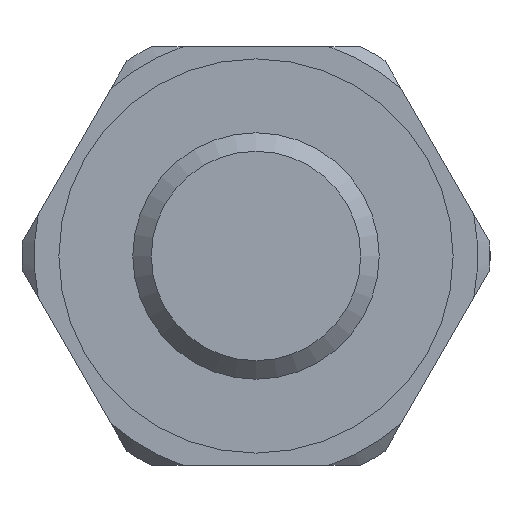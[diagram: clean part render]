
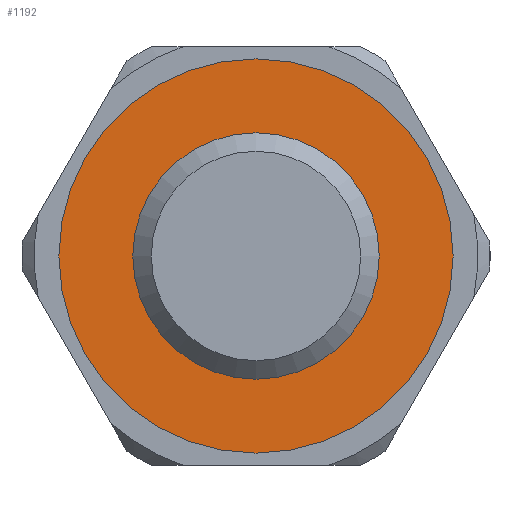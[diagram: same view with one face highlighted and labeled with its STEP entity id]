
A CAD part, left-side view. The second image highlights one B-rep face of the part: STEP entity #1192.
In plain terms, the highlighted planar face has unit normal (-1, 0, 0).
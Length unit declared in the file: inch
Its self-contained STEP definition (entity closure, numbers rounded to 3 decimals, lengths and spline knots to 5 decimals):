
#58=FACE_BOUND('',#188,.T.);
#76=PLANE('',#1322);
#120=FACE_OUTER_BOUND('',#187,.T.);
#187=EDGE_LOOP('',(#911,#912));
#188=EDGE_LOOP('',(#913,#914));
#332=CIRCLE('',#1250,0.1378);
#333=CIRCLE('',#1251,0.1378);
#368=CIRCLE('',#1320,0.31496);
#369=CIRCLE('',#1321,0.31496);
#428=VERTEX_POINT('',#1791);
#429=VERTEX_POINT('',#1792);
#488=VERTEX_POINT('',#2026);
#489=VERTEX_POINT('',#2027);
#546=EDGE_CURVE('',#428,#429,#332,.T.);
#547=EDGE_CURVE('',#429,#428,#333,.T.);
#639=EDGE_CURVE('',#488,#489,#368,.T.);
#640=EDGE_CURVE('',#489,#488,#369,.T.);
#911=ORIENTED_EDGE('',*,*,#639,.T.);
#912=ORIENTED_EDGE('',*,*,#640,.T.);
#913=ORIENTED_EDGE('',*,*,#546,.T.);
#914=ORIENTED_EDGE('',*,*,#547,.T.);
#1192=ADVANCED_FACE('',(#120,#58),#76,.T.);
#1250=AXIS2_PLACEMENT_3D('',#1793,#1420,#1421);
#1251=AXIS2_PLACEMENT_3D('',#1794,#1422,#1423);
#1320=AXIS2_PLACEMENT_3D('',#2028,#1593,#1594);
#1321=AXIS2_PLACEMENT_3D('',#2029,#1595,#1596);
#1322=AXIS2_PLACEMENT_3D('',#2031,#1598,#1599);
#1420=DIRECTION('center_axis',(1.,0.,0.));
#1421=DIRECTION('ref_axis',(0.,0.,1.));
#1422=DIRECTION('center_axis',(1.,0.,0.));
#1423=DIRECTION('ref_axis',(0.,0.,1.));
#1593=DIRECTION('center_axis',(-1.,0.,0.));
#1594=DIRECTION('ref_axis',(0.,0.,1.));
#1595=DIRECTION('center_axis',(-1.,0.,0.));
#1596=DIRECTION('ref_axis',(0.,0.,1.));
#1598=DIRECTION('center_axis',(-1.,0.,0.));
#1599=DIRECTION('ref_axis',(0.,0.,1.));
#1791=CARTESIAN_POINT('',(-2.21862,-0.42833,0.56421));
#1792=CARTESIAN_POINT('',(-2.21862,-0.42833,0.28862));
#1793=CARTESIAN_POINT('Origin',(-2.21862,-0.42833,0.42641));
#1794=CARTESIAN_POINT('Origin',(-2.21862,-0.42833,0.42641));
#2026=CARTESIAN_POINT('',(-2.21862,-0.42833,0.74137));
#2027=CARTESIAN_POINT('',(-2.21862,-0.42833,0.11145));
#2028=CARTESIAN_POINT('Origin',(-2.21862,-0.42833,0.42641));
#2029=CARTESIAN_POINT('Origin',(-2.21862,-0.42833,0.42641));
#2031=CARTESIAN_POINT('Origin',(-2.21862,-0.42833,0.42641));
